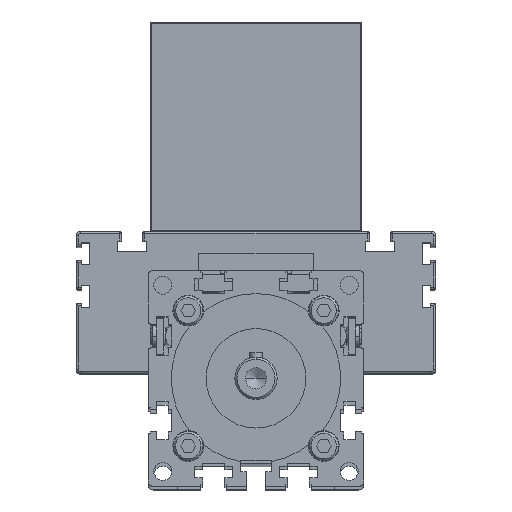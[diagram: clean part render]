
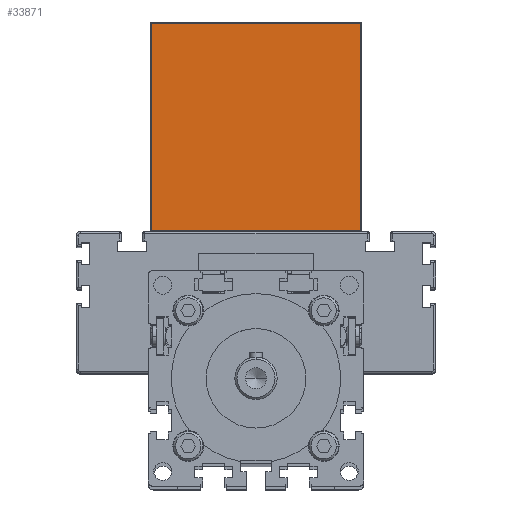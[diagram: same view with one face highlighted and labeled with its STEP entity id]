
A CAD part, top view. The second image highlights one B-rep face of the part: STEP entity #33871.
In plain terms, the highlighted planar face has unit normal (0, 0, 1).
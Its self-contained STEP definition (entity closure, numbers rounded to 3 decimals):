
#503 = AXIS2_PLACEMENT_3D ( 'NONE', #29073, #13912, #22646 ) ;
#1187 = ORIENTED_EDGE ( 'NONE', *, *, #32542, .T. ) ;
#5859 = VERTEX_POINT ( 'NONE', #24076 ) ;
#6467 = CARTESIAN_POINT ( 'NONE',  ( 49.5, 99., 90. ) ) ;
#6487 = VERTEX_POINT ( 'NONE', #7486 ) ;
#7162 = VECTOR ( 'NONE', #34123, 1000. ) ;
#7486 = CARTESIAN_POINT ( 'NONE',  ( 49.5, 0.5, 90. ) ) ;
#8858 = EDGE_CURVE ( 'NONE', #15937, #5859, #36995, .T. ) ;
#9195 = VECTOR ( 'NONE', #28445, 1000. ) ;
#10117 = CARTESIAN_POINT ( 'NONE',  ( 49.5, 98.5, 90. ) ) ;
#10316 = CARTESIAN_POINT ( 'NONE',  ( -49.5, 0., 90. ) ) ;
#12199 = EDGE_LOOP ( 'NONE', ( #1187, #20237, #20525, #26276 ) ) ;
#12886 = DIRECTION ( 'NONE',  ( 0., 1., 0. ) ) ;
#13912 = DIRECTION ( 'NONE',  ( 0., 0., -1. ) ) ;
#14303 = PLANE ( 'NONE',  #503 ) ;
#15937 = VERTEX_POINT ( 'NONE', #24124 ) ;
#16356 = LINE ( 'NONE', #16558, #9195 ) ;
#16558 = CARTESIAN_POINT ( 'NONE',  ( 50., 0.5, 90. ) ) ;
#17214 = VERTEX_POINT ( 'NONE', #10117 ) ;
#20237 = ORIENTED_EDGE ( 'NONE', *, *, #23822, .T. ) ;
#20525 = ORIENTED_EDGE ( 'NONE', *, *, #8858, .T. ) ;
#22120 = VECTOR ( 'NONE', #12886, 1000. ) ;
#22187 = DIRECTION ( 'NONE',  ( 0., -1., 0. ) ) ;
#22646 = DIRECTION ( 'NONE',  ( 0., 1., 0. ) ) ;
#23421 = FACE_OUTER_BOUND ( 'NONE', #12199, .T. ) ;
#23822 = EDGE_CURVE ( 'NONE', #17214, #15937, #25361, .T. ) ;
#24076 = CARTESIAN_POINT ( 'NONE',  ( -49.5, 0.5, 90. ) ) ;
#24124 = CARTESIAN_POINT ( 'NONE',  ( -49.5, 98.5, 90. ) ) ;
#25361 = LINE ( 'NONE', #37066, #7162 ) ;
#25542 = EDGE_CURVE ( 'NONE', #5859, #6487, #16356, .T. ) ;
#26276 = ORIENTED_EDGE ( 'NONE', *, *, #25542, .T. ) ;
#27669 = LINE ( 'NONE', #6467, #22120 ) ;
#28445 = DIRECTION ( 'NONE',  ( 1., 0., 0. ) ) ;
#29073 = CARTESIAN_POINT ( 'NONE',  ( 50., 0., 90. ) ) ;
#32542 = EDGE_CURVE ( 'NONE', #6487, #17214, #27669, .T. ) ;
#33871 = ADVANCED_FACE ( 'NONE', ( #23421 ), #14303, .F. ) ;
#34123 = DIRECTION ( 'NONE',  ( -1., 0., 0. ) ) ;
#34932 = VECTOR ( 'NONE', #22187, 1000. ) ;
#36995 = LINE ( 'NONE', #10316, #34932 ) ;
#37066 = CARTESIAN_POINT ( 'NONE',  ( 50., 98.5, 90. ) ) ;
